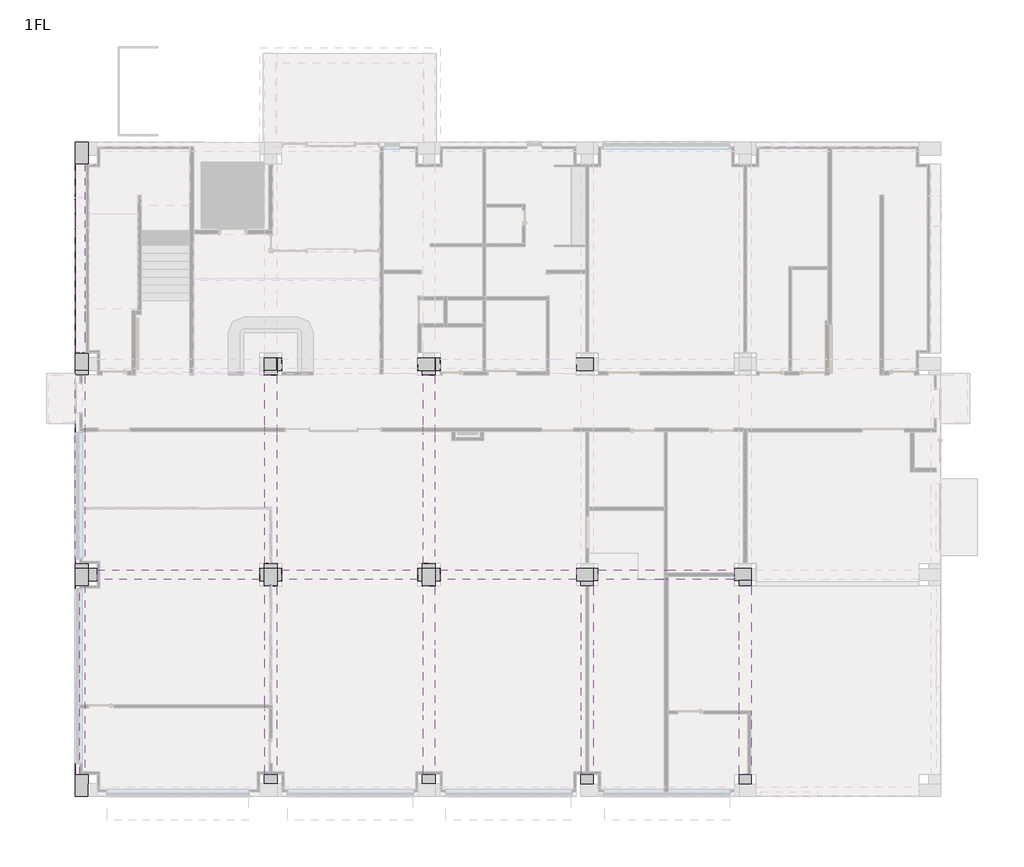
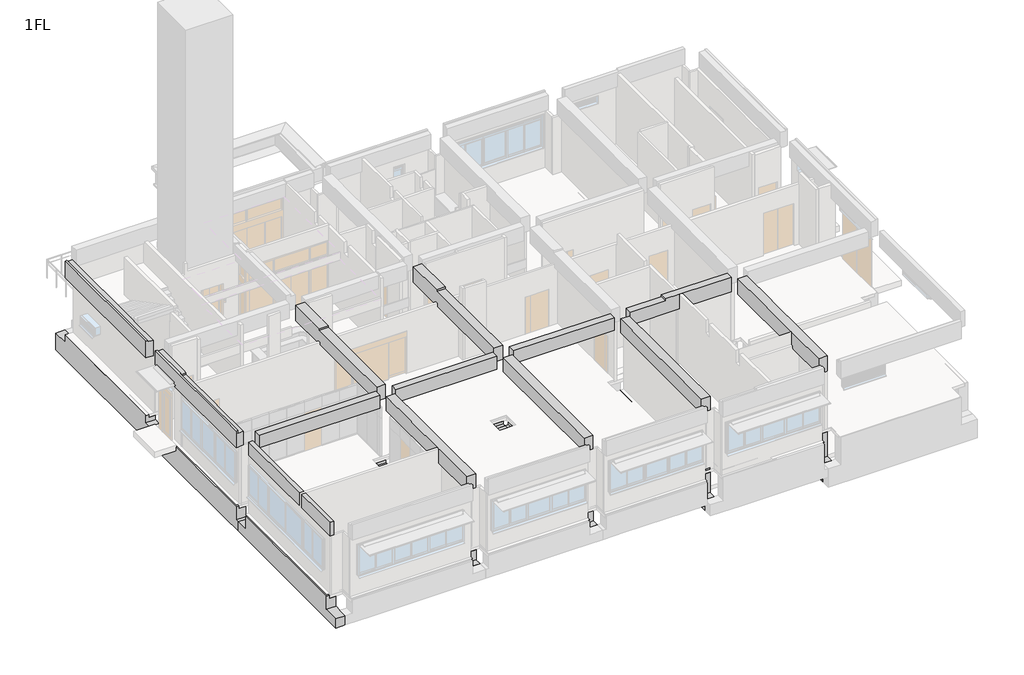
# One storey, part 5 of 7: 45 beams.
"""IFC4 building model written with IfcOpenShell, lengths in millimetres."""

from ifc_helpers import new_model, si_unit, frame, origin, place, context, project, spatial, polyline, outline, extrude, faceted_brep, element, save

model = new_model("IFC4")

# Units and contexts
model_context = context("Model", 3, world=origin())
ifc_project = project(units=[si_unit("LENGTHUNIT", "METRE", prefix="MILLI")], contexts=[model_context])

# Site, building, storey
site = spatial("IfcSite", under=ifc_project)
building = spatial("IfcBuilding", under=site)
storey = spatial("IfcBuildingStorey", under=building, Name="1FL", Elevation=0.0)

# Beams
placement = place(None, origin())
element("IfcBeam", 1, ObjectType="営_RC梁 : 2-RG11 350*900", at=placement, inside=storey, context=model_context, shape_type="SweptSolid", body=[
    extrude(outline(polyline([(-50.0, 7580.0), (-50.0, 420.0), (-250.0, 420.0), (-250.0, 7580.0), (-50.0, 7580.0)])), frame((0.0, 0.0, 3100.0), z_axis=(0.0, 0.0, 1.0), x_axis=(1.0, 0.0, 0.0)), (0.0, 0.0, 1.0), 750.0),
])
element("IfcBeam", 2, ObjectType="営_RC梁 : 2-RG11 350*900", at=placement, inside=storey, context=model_context, shape_type="Brep", body=[
    faceted_brep([(-50.0, 15580.0, 3100.0), (-250.0, 15580.0, 3100.0), (-420.0, 15580.0, 3100.0), (-420.0, 15580.0, 4000.0), (-325.0, 15580.0, 4000.0), (-325.0, 15580.0, 3940.0), (-250.0, 15580.0, 3940.0), (-50.0, 15580.0, 3940.0), (-420.0, 8420.0, 4000.0), (-420.0, 8420.0, 3100.0), (-250.0, 8420.0, 3100.0), (-50.0, 8420.0, 3100.0), (-50.0, 8420.0, 3850.0), (-250.0, 8420.0, 3850.0), (-335.0, 8420.0, 3850.0), (-335.0, 8420.0, 4000.0), (-50.0, 13440.0, 3100.0), (-50.0, 13560.0, 3100.0), (-50.0, 13675.0, 3940.0), (-50.0, 13500.0, 3940.0), (-50.0, 13500.0, 3850.0), (-50.0, 13325.0, 3850.0), (-50.0, 10925.0, 3850.0), (-50.0, 10575.0, 3850.0), (-420.0, 14142.5, 3100.0), (-420.0, 15262.5, 3100.0), (-335.0, 13500.0, 4000.0), (-325.0, 13500.0, 4000.0), (-250.0, 13500.0, 3850.0), (-335.0, 13500.0, 3850.0), (-250.0, 13500.0, 3940.0), (-325.0, 13500.0, 3940.0)], [[[0, 1, 2, 3, 4, 5, 6, 7]], [[8, 9, 10, 11, 12, 13, 14, 15]], [[11, 16, 17, 0, 7, 18, 19, 20, 21, 22, 23, 12]], [[2, 1, 0, 17, 16, 11, 10, 9, 24, 25]], [[3, 2, 25, 24, 9, 8]], [[3, 8, 15, 26, 27, 4]], [[20, 28, 29, 14, 13, 12, 23, 22, 21]], [[29, 26, 15, 14]], [[26, 29, 28, 20, 19, 30, 31, 27]], [[5, 31, 30, 19, 18, 7, 6]], [[31, 5, 4, 27]]]),
])
element("IfcBeam", 3, ObjectType="営_RC梁 : 2-RG11 350*900", at=placement, inside=storey, context=model_context, shape_type="Brep", body=[
    faceted_brep([(-50.0, 23580.0, 3100.0), (-250.0, 23580.0, 3100.0), (-420.0, 23580.0, 3100.0), (-420.0, 23580.0, 4000.0), (-325.0, 23580.0, 4000.0), (-325.0, 23580.0, 3940.0), (-250.0, 23580.0, 3940.0), (-50.0, 23580.0, 3940.0), (-420.0, 16420.0, 4000.0), (-420.0, 16420.0, 3100.0), (-250.0, 16420.0, 3100.0), (-50.0, 16420.0, 3100.0), (-50.0, 16420.0, 3940.0), (-250.0, 16420.0, 3940.0), (-325.0, 16420.0, 3940.0), (-325.0, 16420.0, 4000.0), (-50.0, 18225.0, 3940.0), (-50.0, 17975.0, 3940.0)], [[[0, 1, 2, 3, 4, 5, 6, 7]], [[8, 9, 10, 11, 12, 13, 14, 15]], [[11, 0, 7, 16, 17, 12]], [[2, 1, 0, 11, 10, 9]], [[3, 2, 9, 8]], [[3, 8, 15, 4]], [[5, 14, 13, 12, 17, 16, 7, 6]], [[14, 5, 4, 15]]]),
])
element("IfcBeam", 4, ObjectType="営_RC梁 : 2-RG2 350*850", at=placement, inside=storey, context=model_context, shape_type="SweptSolid", body=[
    extrude(outline(polyline([(6580.0, 8175.0), (6580.0, 7825.0), (420.0, 7825.0), (420.0, 8175.0), (6580.0, 8175.0)])), frame((0.0, 0.0, 3150.0), z_axis=(0.0, 0.0, 1.0), x_axis=(1.0, 0.0, 0.0)), (0.0, 0.0, 1.0), 700.0),
])
element("IfcBeam", 5, ObjectType="営_RC梁 : 2-RG2 350*850", at=placement, inside=storey, context=model_context, shape_type="SweptSolid", body=[
    extrude(outline(polyline([(7420.0, 7825.0), (7420.0, 8175.0), (12580.0, 8175.0), (12580.0, 7825.0), (7420.0, 7825.0)])), frame((0.0, 0.0, 3150.0), z_axis=(0.0, 0.0, 1.0), x_axis=(1.0, 0.0, 0.0)), (0.0, 0.0, 1.0), 700.0),
])
element("IfcBeam", 6, ObjectType="営_RC梁 : 2-RG2 350*850", at=placement, inside=storey, context=model_context, shape_type="SweptSolid", body=[
    extrude(outline(polyline([(13420.0, 7825.0), (13420.0, 8175.0), (18580.0, 8175.0), (18580.0, 7825.0), (13420.0, 7825.0)])), frame((0.0, 0.0, 3150.0), z_axis=(0.0, 0.0, 1.0), x_axis=(1.0, 0.0, 0.0)), (0.0, 0.0, 1.0), 700.0),
])
element("IfcBeam", 7, ObjectType="営_RC梁 : 2-RG2 350*850", at=placement, inside=storey, context=model_context, shape_type="Brep", body=[
    faceted_brep([(19420.0, 7825.0, 3150.0), (21925.0, 7825.0, 3150.0), (22075.0, 7825.0, 3150.0), (24580.0, 7825.0, 3150.0), (24580.0, 7825.0, 3940.0), (22075.0, 7825.0, 3940.0), (21925.0, 7825.0, 3940.0), (21200.0, 7825.0, 3940.0), (21200.0, 7825.0, 3850.0), (19420.0, 7825.0, 3850.0), (19420.0, 8175.0, 3150.0), (21920.0, 8175.0, 3150.0), (22040.0, 8175.0, 3150.0), (24580.0, 8175.0, 3150.0), (24580.0, 8075.0, 3150.0), (24580.0, 7925.0, 3150.0), (19420.0, 8175.0, 3850.0), (21200.0, 8175.0, 3850.0), (21200.0, 8175.0, 3940.0), (24580.0, 8175.0, 3940.0)], [[[0, 1, 2, 3, 4, 5, 6, 7, 8, 9]], [[0, 10, 11, 12, 13, 14, 15, 3, 2, 1]], [[13, 12, 11, 10, 16, 17, 18, 19]], [[10, 0, 9, 16]], [[3, 15, 14, 13, 19, 4]], [[8, 17, 16, 9]], [[17, 8, 7, 18]], [[7, 6, 5, 4, 19, 18]]]),
])
element("IfcBeam", 8, ObjectType="営_RC梁 : 2-4G12 450*900", at=placement, inside=storey, context=model_context, shape_type="Brep", body=[
    faceted_brep([(7225.0, 420.0, 3100.0), (7225.0, 7580.0, 3100.0), (7225.0, 7580.0, 3850.0), (7225.0, 5505.0, 3850.0), (7225.0, 5155.0, 3850.0), (7225.0, 2835.0, 3850.0), (7225.0, 2485.0, 3850.0), (7225.0, 420.0, 3850.0), (7060.0, 420.0, 3100.0), (6940.0, 420.0, 3100.0), (6775.0, 420.0, 3100.0), (6775.0, 2940.0, 3100.0), (6775.0, 3060.0, 3100.0), (6775.0, 7580.0, 3100.0), (6775.0, 420.0, 3850.0), (6775.0, 2485.0, 3850.0), (6775.0, 2835.0, 3850.0), (6775.0, 2940.0, 3850.0), (6775.0, 3060.0, 3850.0), (6775.0, 5155.0, 3850.0), (6775.0, 5505.0, 3850.0), (6775.0, 7580.0, 3850.0)], [[[0, 1, 2, 3, 4, 5, 6, 7]], [[0, 8, 9, 10, 11, 12, 13, 1]], [[13, 12, 11, 10, 14, 15, 16, 17, 18, 19, 20, 21]], [[10, 9, 8, 0, 7, 14]], [[1, 13, 21, 2]], [[7, 6, 5, 4, 3, 2, 21, 20, 19, 18, 17, 16, 15, 14]]]),
])
element("IfcBeam", 9, ObjectType="営_RC梁 : 2-4G12 450*900", at=placement, inside=storey, context=model_context, shape_type="Brep", body=[
    faceted_brep([(7225.0, 8420.0, 3100.0), (7225.0, 13440.0, 3100.0), (7225.0, 13560.0, 3100.0), (7225.0, 15580.0, 3100.0), (7225.0, 15580.0, 3940.0), (7225.0, 13675.0, 3940.0), (7225.0, 13500.0, 3940.0), (7225.0, 13500.0, 3850.0), (7225.0, 13325.0, 3850.0), (7225.0, 10925.0, 3850.0), (7225.0, 10575.0, 3850.0), (7225.0, 8420.0, 3850.0), (6775.0, 8420.0, 3100.0), (6775.0, 13440.0, 3100.0), (6775.0, 13560.0, 3100.0), (6775.0, 15580.0, 3100.0), (6775.0, 8420.0, 3850.0), (6775.0, 10575.0, 3850.0), (6775.0, 10925.0, 3850.0), (6775.0, 13325.0, 3850.0), (6775.0, 13500.0, 3850.0), (6775.0, 13500.0, 3940.0), (6775.0, 13675.0, 3940.0), (6775.0, 15580.0, 3940.0)], [[[0, 1, 2, 3, 4, 5, 6, 7, 8, 9, 10, 11]], [[0, 12, 13, 14, 15, 3, 2, 1]], [[15, 14, 13, 12, 16, 17, 18, 19, 20, 21, 22, 23]], [[12, 0, 11, 16]], [[3, 15, 23, 4]], [[7, 20, 19, 18, 17, 16, 11, 10, 9, 8]], [[20, 7, 6, 21]], [[6, 5, 4, 23, 22, 21]]]),
])
element("IfcBeam", 10, ObjectType="営_RC梁 : 2-4G12 450*900", at=placement, inside=storey, context=model_context, shape_type="Brep", body=[
    faceted_brep([(13225.0, 420.0, 3100.0), (13225.0, 7580.0, 3100.0), (13225.0, 7580.0, 3850.0), (13225.0, 5505.0, 3850.0), (13225.0, 5155.0, 3850.0), (13225.0, 2835.0, 3850.0), (13225.0, 2485.0, 3850.0), (13225.0, 420.0, 3850.0), (12775.0, 420.0, 3100.0), (12775.0, 7580.0, 3100.0), (12775.0, 420.0, 3850.0), (12775.0, 2485.0, 3850.0), (12775.0, 2835.0, 3850.0), (12775.0, 5155.0, 3850.0), (12775.0, 5505.0, 3850.0), (12775.0, 7580.0, 3850.0)], [[[0, 1, 2, 3, 4, 5, 6, 7]], [[0, 8, 9, 1]], [[9, 8, 10, 11, 12, 13, 14, 15]], [[8, 0, 7, 10]], [[1, 9, 15, 2]], [[7, 6, 5, 4, 3, 2, 15, 14, 13, 12, 11, 10]]]),
])
element("IfcBeam", 11, ObjectType="営_RC梁 : 2-4G12 450*900", at=placement, inside=storey, context=model_context, shape_type="Brep", body=[
    faceted_brep([(13225.0, 8420.0, 3100.0), (13225.0, 13440.0, 3100.0), (13225.0, 13560.0, 3100.0), (13225.0, 15580.0, 3100.0), (13225.0, 15580.0, 3940.0), (13225.0, 13675.0, 3940.0), (13225.0, 13500.0, 3940.0), (13225.0, 13500.0, 3850.0), (13225.0, 13325.0, 3850.0), (13225.0, 10925.0, 3850.0), (13225.0, 10575.0, 3850.0), (13225.0, 8420.0, 3850.0), (12775.0, 8420.0, 3100.0), (12775.0, 13440.0, 3100.0), (12775.0, 13560.0, 3100.0), (12775.0, 15580.0, 3100.0), (12775.0, 8420.0, 3850.0), (12775.0, 10575.0, 3850.0), (12775.0, 10925.0, 3850.0), (12775.0, 13325.0, 3850.0), (12775.0, 13500.0, 3850.0), (12775.0, 13500.0, 3940.0), (12775.0, 13675.0, 3940.0), (12775.0, 15580.0, 3940.0)], [[[0, 1, 2, 3, 4, 5, 6, 7, 8, 9, 10, 11]], [[0, 12, 13, 14, 15, 3, 2, 1]], [[15, 14, 13, 12, 16, 17, 18, 19, 20, 21, 22, 23]], [[12, 0, 11, 16]], [[3, 15, 23, 4]], [[7, 20, 19, 18, 17, 16, 11, 10, 9, 8]], [[20, 7, 6, 21]], [[6, 5, 4, 23, 22, 21]]]),
])
element("IfcBeam", 12, ObjectType="営_RC梁 : 2-4G12 450*900", at=placement, inside=storey, context=model_context, shape_type="Brep", body=[
    faceted_brep([(19225.0, 420.0, 3100.0), (19225.0, 7580.0, 3100.0), (19225.0, 7580.0, 3850.0), (19225.0, 5505.0, 3850.0), (19225.0, 5155.0, 3850.0), (19225.0, 2835.0, 3850.0), (19225.0, 2485.0, 3850.0), (19225.0, 420.0, 3850.0), (18775.0, 7580.0, 3100.0), (18940.0, 7580.0, 3100.0), (19060.0, 7580.0, 3100.0), (19060.0, 420.0, 3100.0), (18940.0, 420.0, 3100.0), (18775.0, 420.0, 3100.0), (18775.0, 420.0, 3850.0), (18775.0, 2485.0, 3850.0), (18775.0, 2835.0, 3850.0), (18775.0, 5155.0, 3850.0), (18775.0, 5505.0, 3850.0), (18775.0, 7580.0, 3850.0)], [[[0, 1, 2, 3, 4, 5, 6, 7]], [[8, 9, 10, 1, 0, 11, 12, 13]], [[8, 13, 14, 15, 16, 17, 18, 19]], [[1, 10, 9, 8, 19, 2]], [[13, 12, 11, 0, 7, 14]], [[7, 6, 5, 4, 3, 2, 19, 18, 17, 16, 15, 14]]]),
])
element("IfcBeam", 13, ObjectType="営_RC梁 : 2-4G12 450*900", at=placement, inside=storey, context=model_context, shape_type="Brep", body=[
    faceted_brep([(25225.0, 420.0, 3100.0), (25225.0, 7580.0, 3100.0), (25225.0, 7580.0, 3940.0), (25225.0, 5505.0, 3940.0), (25225.0, 5155.0, 3940.0), (25225.0, 2839.0, 3940.0), (25225.0, 2489.0, 3940.0), (25225.0, 420.0, 3940.0), (24775.0, 7580.0, 3100.0), (25211.4048652, 420.0, 3100.0), (25091.4048652, 420.0, 3100.0), (24775.0, 420.0, 3100.0), (24775.0, 2718.3416571, 3100.0), (24775.0, 2838.3416571, 3100.0), (24775.0, 420.0, 3940.0), (24775.0, 2485.0, 3940.0), (24775.0, 2835.0, 3940.0), (24775.0, 2838.3416571, 3940.0), (24775.0, 5155.0, 3940.0), (24775.0, 5505.0, 3940.0), (24775.0, 7580.0, 3940.0)], [[[0, 1, 2, 3, 4, 5, 6, 7]], [[8, 1, 0, 9, 10, 11, 12, 13]], [[8, 13, 12, 11, 14, 15, 16, 17, 18, 19, 20]], [[1, 8, 20, 2]], [[11, 10, 9, 0, 7, 14]], [[7, 6, 5, 4, 3, 2, 20, 19, 18, 17, 16, 15, 14]]]),
])
element("IfcBeam", 14, ObjectType="営_RC梁 : FG11 450*1200", at=placement, inside=storey, context=model_context, shape_type="Brep", body=[
    faceted_brep([(70.0, 16420.0, -400.0), (70.0, 16400.0, -400.0), (70.0, 16245.0, -400.0), (70.0, 15755.0, -400.0), (70.0, 15755.0, -1300.0), (70.0, 16245.0, -1300.0), (70.0, 17500.0, -1300.0), (70.0, 22500.0, -1300.0), (70.0, 23930.0, -1300.0), (70.0, 24420.0, -1300.0), (70.0, 24420.0, -400.0), (70.0, 23930.0, -400.0), (70.0, 23600.0, -400.0), (70.0, 23580.0, -400.0), (70.0, 23580.0, -160.0), (70.0, 18245.0, -160.0), (70.0, 17955.0, -160.0), (70.0, 16420.0, -160.0), (-420.0, 24420.0, -1300.0), (-420.0, 15755.0, -1300.0), (-420.0, 17500.0, -1300.0), (-420.0, 22500.0, -1300.0), (-420.0, 15755.0, -400.0), (-420.0, 16420.0, -400.0), (-420.0, 16420.0, -10.0), (-420.0, 23580.0, -10.0), (-420.0, 23580.0, -400.0), (-420.0, 24420.0, -400.0), (-420.0, 24420.0, -405.4545455), (-250.0, 16420.0, -10.0), (-250.0, 23580.0, -10.0), (-250.0, 16420.0, -160.0), (-250.0, 23580.0, -160.0)], [[[0, 1, 2, 3, 4, 5, 6, 7, 8, 9, 10, 11, 12, 13, 14, 15, 16, 17]], [[18, 9, 8, 7, 6, 5, 4, 19, 20, 21]], [[22, 23, 24, 25, 26, 27, 28, 18, 21, 20, 19]], [[25, 24, 29, 30]], [[0, 23, 22, 3, 2, 1]], [[23, 0, 17, 31, 29, 24]], [[9, 18, 28, 27, 10]], [[26, 13, 12, 11, 10, 27]], [[13, 26, 25, 30, 32, 14]], [[19, 4, 3, 22]], [[32, 31, 17, 16, 15, 14]], [[31, 32, 30, 29]]]),
])
element("IfcBeam", 15, ObjectType="営_RC梁 : FG11 450*1200", at=placement, inside=storey, context=model_context, shape_type="Brep", body=[
    faceted_brep([(70.0, 420.0, -800.0), (70.0, 400.0, -800.0), (70.0, 70.0, -800.0), (70.0, -420.0, -800.0), (70.0, -420.0, -1300.0), (70.0, 70.0, -1300.0), (70.0, 1350.0, -1300.0), (70.0, 6650.0, -1300.0), (70.0, 7755.0, -1300.0), (70.0, 8245.0, -1300.0), (70.0, 8245.0, -800.0), (70.0, 7755.0, -800.0), (70.0, 7600.0, -800.0), (70.0, 7580.0, -800.0), (70.0, 7580.0, -250.0), (70.0, 5523.0, -250.0), (70.0, 5133.0, -250.0), (70.0, 2855.0, -250.0), (70.0, 2465.0, -250.0), (70.0, 420.0, -250.0), (-420.0, 8245.0, -1300.0), (-420.0, -420.0, -1300.0), (-420.0, 1350.0, -1300.0), (-420.0, 6650.0, -1300.0), (-420.0, -420.0, -800.0), (-420.0, 420.0, -800.0), (-420.0, 420.0, -100.0), (-420.0, 7580.0, -100.0), (-420.0, 7580.0, -800.0), (-420.0, 8245.0, -800.0), (-420.0, -420.0, -804.2105263), (-250.0, 420.0, -100.0), (-250.0, 7580.0, -100.0), (-250.0, 420.0, -250.0), (-250.0, 7580.0, -250.0)], [[[0, 1, 2, 3, 4, 5, 6, 7, 8, 9, 10, 11, 12, 13, 14, 15, 16, 17, 18, 19]], [[20, 9, 8, 7, 6, 5, 4, 21, 22, 23]], [[24, 25, 26, 27, 28, 29, 20, 23, 22, 21, 30]], [[27, 26, 31, 32]], [[0, 25, 24, 3, 2, 1]], [[25, 0, 19, 33, 31, 26]], [[28, 13, 12, 11, 10, 29]], [[13, 28, 27, 32, 34, 14]], [[9, 20, 29, 10]], [[21, 4, 3, 24, 30]], [[34, 33, 19, 18, 17, 16, 15, 14]], [[33, 34, 32, 31]]]),
])
element("IfcBeam", 16, ObjectType="営_RC梁 : FG11 450*1200", at=placement, inside=storey, context=model_context, shape_type="Brep", body=[
    faceted_brep([(70.0, 15755.0, -400.0), (70.0, 15600.0, -400.0), (70.0, 15580.0, -400.0), (70.0, 15580.0, -160.0), (70.0, 13695.0, -160.0), (70.0, 13500.0, -160.0), (70.0, 13500.0, -250.0), (70.0, 13305.0, -250.0), (70.0, 10945.0, -250.0), (70.0, 10555.0, -250.0), (70.0, 8420.0, -250.0), (70.0, 8420.0, -800.0), (70.0, 8400.0, -800.0), (70.0, 8245.0, -800.0), (70.0, 8245.0, -1300.0), (70.0, 9350.0, -1300.0), (70.0, 14500.0, -1300.0), (70.0, 15755.0, -1300.0), (-420.0, 15755.0, -1300.0), (-420.0, 8245.0, -1300.0), (-420.0, 9350.0, -1300.0), (-420.0, 14500.0, -1300.0), (-420.0, 8420.0, -800.0), (-420.0, 8420.0, -100.0), (-420.0, 15580.0, -100.0), (-420.0, 15580.0, -400.0), (-420.0, 15755.0, -400.0), (-420.0, 8245.0, -800.0), (-250.0, 8420.0, -100.0), (-250.0, 13500.0, -100.0), (-250.0, 15580.0, -100.0), (-250.0, 8420.0, -250.0), (-250.0, 15580.0, -160.0), (-250.0, 13500.0, -160.0), (-250.0, 13500.0, -250.0)], [[[0, 1, 2, 3, 4, 5, 6, 7, 8, 9, 10, 11, 12, 13, 14, 15, 16, 17]], [[18, 17, 16, 15, 14, 19, 20, 21]], [[22, 23, 24, 25, 26, 18, 21, 20, 19, 27]], [[24, 23, 28, 29, 30]], [[11, 22, 27, 13, 12]], [[22, 11, 10, 31, 28, 23]], [[25, 2, 1, 0, 26]], [[2, 25, 24, 30, 32, 3]], [[17, 18, 26, 0]], [[14, 13, 27, 19]], [[32, 33, 5, 4, 3]], [[33, 32, 30, 29, 28, 31, 34]], [[6, 34, 31, 10, 9, 8, 7]], [[33, 34, 6, 5]]]),
])
element("IfcBeam", 17, ObjectType="営_RC梁 : FG3 450*1850", at=placement, inside=storey, context=model_context, shape_type="Brep", body=[
    faceted_brep([(7420.0, 15755.0, -950.0), (7400.0, 15755.0, -950.0), (7245.0, 15755.0, -950.0), (6755.0, 15755.0, -950.0), (6755.0, 15755.0, -1300.0), (6755.0, 15755.0, -1950.0), (8650.0, 15755.0, -1950.0), (11350.0, 15755.0, -1950.0), (13225.0, 15755.0, -1950.0), (13225.0, 15755.0, -950.0), (12755.0, 15755.0, -950.0), (12600.0, 15755.0, -950.0), (12580.0, 15755.0, -950.0), (12580.0, 15755.0, -160.0), (7420.0, 15755.0, -160.0), (6755.0, 16225.0, -1950.0), (7225.0, 16225.0, -1950.0), (8650.0, 16225.0, -1950.0), (11350.0, 16225.0, -1950.0), (12775.0, 16225.0, -1950.0), (13225.0, 16225.0, -1950.0), (6755.0, 16225.0, -950.0), (7225.0, 16225.0, -950.0), (7400.0, 16225.0, -950.0), (7420.0, 16225.0, -950.0), (7420.0, 16225.0, -160.0), (11025.0, 16225.0, -160.0), (11375.0, 16225.0, -160.0), (12580.0, 16225.0, -160.0), (12580.0, 16225.0, -950.0), (12600.0, 16225.0, -950.0), (12775.0, 16225.0, -950.0), (13225.0, 16225.0, -950.0)], [[[0, 1, 2, 3, 4, 5, 6, 7, 8, 9, 10, 11, 12, 13, 14]], [[5, 15, 16, 17, 18, 19, 20, 8, 7, 6]], [[21, 22, 23, 24, 25, 26, 27, 28, 29, 30, 31, 32, 20, 19, 18, 17, 16, 15]], [[0, 24, 23, 22, 21, 3, 2, 1]], [[24, 0, 14, 25]], [[29, 12, 11, 10, 9, 32, 31, 30]], [[12, 29, 28, 13]], [[15, 5, 4, 3, 21]], [[8, 20, 32, 9]], [[14, 13, 28, 27, 26, 25]]]),
])
element("IfcBeam", 18, ObjectType="営_RC梁 : FG3 450*1850", at=placement, inside=storey, context=model_context, shape_type="Brep", body=[
    faceted_brep([(13420.0, 15755.0, -950.0), (13400.0, 15755.0, -950.0), (13245.0, 15755.0, -950.0), (12772.6070916, 15755.0, -950.0), (12772.6070916, 15755.0, -1950.0), (14650.0, 15755.0, -1950.0), (17350.0, 15755.0, -1950.0), (19225.0, 15755.0, -1950.0), (19225.0, 15755.0, -950.0), (18755.0, 15755.0, -950.0), (18600.0, 15755.0, -950.0), (18580.0, 15755.0, -950.0), (18580.0, 15755.0, -160.0), (13420.0, 15755.0, -160.0), (12775.0, 16225.0, -1950.0), (13225.0, 16225.0, -1950.0), (14650.0, 16225.0, -1950.0), (17350.0, 16225.0, -1950.0), (18775.0, 16225.0, -1950.0), (19225.0, 16225.0, -1950.0), (12772.6070916, 16000.0, -1950.0), (12775.0, 16000.0, -1950.0), (12775.0, 16225.0, -950.0), (13225.0, 16225.0, -950.0), (13400.0, 16225.0, -950.0), (13420.0, 16225.0, -950.0), (13420.0, 16225.0, -160.0), (18580.0, 16225.0, -160.0), (18580.0, 16225.0, -950.0), (18600.0, 16225.0, -950.0), (18775.0, 16225.0, -950.0), (19225.0, 16225.0, -950.0), (12772.6070916, 16000.0, -950.0), (12775.0, 16000.0, -950.0)], [[[0, 1, 2, 3, 4, 5, 6, 7, 8, 9, 10, 11, 12, 13]], [[14, 15, 16, 17, 18, 19, 7, 6, 5, 4, 20, 21]], [[22, 23, 24, 25, 26, 27, 28, 29, 30, 31, 19, 18, 17, 16, 15, 14]], [[20, 4, 3, 32]], [[0, 25, 24, 23, 22, 33, 32, 3, 2, 1]], [[25, 0, 13, 26]], [[28, 11, 10, 9, 8, 31, 30, 29]], [[11, 28, 27, 12]], [[7, 19, 31, 8]], [[21, 20, 32, 33]], [[14, 21, 33, 22]], [[13, 12, 27, 26]]]),
])
element("IfcBeam", 19, ObjectType="営_RC梁 : FG2 450*1200", at=placement, inside=storey, context=model_context, shape_type="Brep", body=[
    faceted_brep([(7245.0, 7755.0, -400.0), (6755.0, 7755.0, -400.0), (6600.0, 7755.0, -400.0), (6580.0, 7755.0, -400.0), (6580.0, 7755.0, -250.0), (420.0, 7755.0, -250.0), (420.0, 7755.0, -800.0), (400.0, 7755.0, -800.0), (70.0, 7755.0, -800.0), (70.0, 7755.0, -1300.0), (1350.0, 7755.0, -1300.0), (5350.0, 7755.0, -1300.0), (6755.0, 7755.0, -1300.0), (7245.0, 7755.0, -1300.0), (7245.0, 8245.0, -1300.0), (70.0, 8245.0, -1300.0), (1350.0, 8245.0, -1300.0), (5350.0, 8245.0, -1300.0), (6755.0, 8245.0, -1300.0), (6580.0, 8245.0, -400.0), (6600.0, 8245.0, -400.0), (6755.0, 8245.0, -400.0), (7245.0, 8245.0, -400.0), (70.0, 8245.0, -800.0), (400.0, 8245.0, -800.0), (420.0, 8245.0, -800.0), (420.0, 8245.0, -250.0), (6580.0, 8245.0, -250.0)], [[[0, 1, 2, 3, 4, 5, 6, 7, 8, 9, 10, 11, 12, 13]], [[14, 13, 12, 11, 10, 9, 15, 16, 17, 18]], [[19, 20, 21, 22, 14, 18, 17, 16, 15, 23, 24, 25, 26, 27]], [[19, 3, 2, 1, 0, 22, 21, 20]], [[3, 19, 27, 4]], [[6, 25, 24, 23, 8, 7]], [[25, 6, 5, 26]], [[13, 14, 22, 0]], [[9, 8, 23, 15]], [[5, 4, 27, 26]]]),
])
element("IfcBeam", 20, ObjectType="営_RC梁 : FG2 450*1200", at=placement, inside=storey, context=model_context, shape_type="Brep", body=[
    faceted_brep([(7420.0, 7755.0, -400.0), (7400.0, 7755.0, -400.0), (7245.0, 7755.0, -400.0), (6755.0, 7755.0, -400.0), (6755.0, 7755.0, -1300.0), (7245.0, 7755.0, -1300.0), (8650.0, 7755.0, -1300.0), (11350.0, 7755.0, -1300.0), (12755.0, 7755.0, -1300.0), (13245.0, 7755.0, -1300.0), (13245.0, 7755.0, -400.0), (12755.0, 7755.0, -400.0), (12600.0, 7755.0, -400.0), (12580.0, 7755.0, -400.0), (12580.0, 7755.0, -250.0), (7420.0, 7755.0, -250.0), (6755.0, 8245.0, -1300.0), (7245.0, 8245.0, -1300.0), (8650.0, 8245.0, -1300.0), (11350.0, 8245.0, -1300.0), (12755.0, 8245.0, -1300.0), (13245.0, 8245.0, -1300.0), (6755.0, 8245.0, -400.0), (7245.0, 8245.0, -400.0), (7400.0, 8245.0, -400.0), (7420.0, 8245.0, -400.0), (7420.0, 8245.0, -250.0), (12580.0, 8245.0, -250.0), (12580.0, 8245.0, -400.0), (12600.0, 8245.0, -400.0), (12755.0, 8245.0, -400.0), (13245.0, 8245.0, -400.0)], [[[0, 1, 2, 3, 4, 5, 6, 7, 8, 9, 10, 11, 12, 13, 14, 15]], [[4, 16, 17, 18, 19, 20, 21, 9, 8, 7, 6, 5]], [[22, 23, 24, 25, 26, 27, 28, 29, 30, 31, 21, 20, 19, 18, 17, 16]], [[0, 25, 24, 23, 22, 3, 2, 1]], [[25, 0, 15, 26]], [[28, 13, 12, 11, 10, 31, 30, 29]], [[13, 28, 27, 14]], [[16, 4, 3, 22]], [[9, 21, 31, 10]], [[15, 14, 27, 26]]]),
])
element("IfcBeam", 21, ObjectType="営_RC梁 : FG2 450*1200", at=placement, inside=storey, context=model_context, shape_type="Brep", body=[
    faceted_brep([(13420.0, 7755.0, -400.0), (13400.0, 7755.0, -400.0), (13245.0, 7755.0, -400.0), (12755.0, 7755.0, -400.0), (12755.0, 7755.0, -1300.0), (13245.0, 7755.0, -1300.0), (14650.0, 7755.0, -1300.0), (17350.0, 7755.0, -1300.0), (18755.0, 7755.0, -1300.0), (19225.0, 7755.0, -1300.0), (19225.0, 7755.0, -950.0), (18755.0, 7755.0, -950.0), (18600.0, 7755.0, -950.0), (18580.0, 7755.0, -950.0), (18580.0, 7755.0, -250.0), (13420.0, 7755.0, -250.0), (12755.0, 8245.0, -1300.0), (13245.0, 8245.0, -1300.0), (14650.0, 8245.0, -1300.0), (17350.0, 8245.0, -1300.0), (18755.0, 8245.0, -1300.0), (19227.3929084, 8245.0, -1300.0), (19227.3929084, 8000.0, -1300.0), (19225.0, 8000.0, -1300.0), (12755.0, 8245.0, -400.0), (13245.0, 8245.0, -400.0), (13400.0, 8245.0, -400.0), (13420.0, 8245.0, -400.0), (13420.0, 8245.0, -250.0), (18580.0, 8245.0, -250.0), (18580.0, 8245.0, -950.0), (18600.0, 8245.0, -950.0), (18755.0, 8245.0, -950.0), (19227.3929084, 8245.0, -950.0), (19227.3929084, 8000.0, -950.0), (19225.0, 7775.0, -950.0), (19225.0, 8000.0, -950.0)], [[[0, 1, 2, 3, 4, 5, 6, 7, 8, 9, 10, 11, 12, 13, 14, 15]], [[16, 17, 18, 19, 20, 21, 22, 23, 9, 8, 7, 6, 5, 4]], [[24, 25, 26, 27, 28, 29, 30, 31, 32, 33, 21, 20, 19, 18, 17, 16]], [[22, 21, 33, 34]], [[0, 27, 26, 25, 24, 3, 2, 1]], [[27, 0, 15, 28]], [[30, 13, 12, 11, 10, 35, 36, 34, 33, 32, 31]], [[13, 30, 29, 14]], [[16, 4, 3, 24]], [[23, 22, 34, 36]], [[9, 23, 36, 35, 10]], [[15, 14, 29, 28]]]),
])
element("IfcBeam", 22, ObjectType="営_RC梁 : FG3 450*1850", at=placement, inside=storey, context=model_context, shape_type="Brep", body=[
    faceted_brep([(19420.0, 7775.0, -950.0), (19400.0, 7775.0, -950.0), (19225.0, 7775.0, -950.0), (18755.0, 7775.0, -950.0), (18755.0, 7775.0, -1950.0), (18755.0, 7775.0, -2150.0), (18755.0, 7775.0, -2500.0), (23350.0, 7775.0, -2500.0), (24775.0, 7775.0, -2500.0), (25225.0, 7775.0, -2500.0), (25225.0, 7775.0, -1500.0), (24775.0, 7775.0, -1500.0), (24600.0, 7775.0, -1500.0), (24580.0, 7775.0, -1500.0), (24580.0, 7775.0, -160.0), (22175.0, 7775.0, -160.0), (22175.0, 7775.0, -250.0), (19420.0, 7775.0, -250.0), (18755.0, 8245.0, -2500.0), (23350.0, 8245.0, -2500.0), (24755.0, 8245.0, -2500.0), (25225.0, 8245.0, -2500.0), (25225.0, 8225.0, -2500.0), (18755.0, 8245.0, -950.0), (19245.0, 8245.0, -950.0), (19400.0, 8245.0, -950.0), (19420.0, 8245.0, -950.0), (19420.0, 8245.0, -250.0), (24580.0, 8245.0, -250.0), (24580.0, 8245.0, -1500.0), (24600.0, 8245.0, -1500.0), (24755.0, 8245.0, -1500.0), (25225.0, 8245.0, -1500.0), (18755.0, 8245.0, -2150.0), (18755.0, 8245.0, -1300.0), (24580.0, 7825.0, -250.0), (24580.0, 7825.0, -160.0), (25225.0, 8225.0, -1500.0), (22175.0, 7825.0, -160.0), (22175.0, 7825.0, -250.0)], [[[0, 1, 2, 3, 4, 5, 6, 7, 8, 9, 10, 11, 12, 13, 14, 15, 16, 17]], [[6, 18, 19, 20, 21, 22, 9, 8, 7]], [[23, 24, 25, 26, 27, 28, 29, 30, 31, 32, 21, 20, 19, 18, 33, 34]], [[0, 26, 25, 24, 23, 3, 2, 1]], [[26, 0, 17, 27]], [[13, 29, 28, 35, 36, 14]], [[18, 6, 5, 4, 3, 23, 34, 33]], [[9, 22, 21, 32, 37, 10]], [[29, 13, 12, 11, 10, 37, 32, 31, 30]], [[15, 14, 36, 38]], [[16, 39, 35, 28, 27, 17]], [[35, 39, 38, 36]], [[39, 16, 15, 38]]]),
])
element("IfcBeam", 23, ObjectType="営_RC梁 : FG12 450*1200", at=placement, inside=storey, context=model_context, shape_type="Brep", body=[
    faceted_brep([(7245.0, 8245.0, -400.0), (7245.0, 7755.0, -400.0), (7245.0, 7600.0, -400.0), (7245.0, 7580.0, -400.0), (7245.0, 7580.0, -250.0), (7245.0, 5523.0, -250.0), (7245.0, 5133.0, -250.0), (7245.0, 2855.0, -250.0), (7245.0, 2465.0, -250.0), (7245.0, 420.0, -250.0), (7245.0, 420.0, -800.0), (7245.0, 400.0, -800.0), (7245.0, 70.0, -800.0), (7245.0, 70.0, -1300.0), (7245.0, 1350.0, -1300.0), (7245.0, 6350.0, -1300.0), (7245.0, 7755.0, -1300.0), (7245.0, 8245.0, -1300.0), (6755.0, 8245.0, -1300.0), (6755.0, 70.0, -1300.0), (6755.0, 1350.0, -1300.0), (6755.0, 6350.0, -1300.0), (6755.0, 7755.0, -1300.0), (6755.0, 7580.0, -400.0), (6755.0, 7600.0, -400.0), (6755.0, 7755.0, -400.0), (6755.0, 8245.0, -400.0), (6755.0, 70.0, -800.0), (6755.0, 400.0, -800.0), (6755.0, 420.0, -800.0), (6755.0, 420.0, -250.0), (6755.0, 2465.0, -250.0), (6755.0, 2855.0, -250.0), (6755.0, 5133.0, -250.0), (6755.0, 5523.0, -250.0), (6755.0, 7580.0, -250.0)], [[[0, 1, 2, 3, 4, 5, 6, 7, 8, 9, 10, 11, 12, 13, 14, 15, 16, 17]], [[18, 17, 16, 15, 14, 13, 19, 20, 21, 22]], [[23, 24, 25, 26, 18, 22, 21, 20, 19, 27, 28, 29, 30, 31, 32, 33, 34, 35]], [[17, 18, 26, 0]], [[10, 29, 28, 27, 12, 11]], [[29, 10, 9, 30]], [[23, 3, 2, 1, 0, 26, 25, 24]], [[3, 23, 35, 4]], [[13, 12, 27, 19]], [[9, 8, 7, 6, 5, 4, 35, 34, 33, 32, 31, 30]]]),
])
element("IfcBeam", 24, ObjectType="営_RC梁 : FG12 450*1200", at=placement, inside=storey, context=model_context, shape_type="Brep", body=[
    faceted_brep([(7245.0, 8245.0, -1300.0), (7245.0, 9650.0, -1300.0), (7245.0, 14350.0, -1300.0), (7245.0, 15755.0, -1300.0), (7245.0, 16225.0, -1300.0), (7245.0, 16225.0, -950.0), (7245.0, 15755.0, -950.0), (7245.0, 15600.0, -950.0), (7245.0, 15580.0, -950.0), (7245.0, 15580.0, -160.0), (7245.0, 13500.0, -160.0), (7245.0, 13500.0, -250.0), (7245.0, 8420.0, -250.0), (7245.0, 8420.0, -400.0), (7245.0, 8400.0, -400.0), (7245.0, 8245.0, -400.0), (6755.0, 8245.0, -1300.0), (6755.0, 9650.0, -1300.0), (6755.0, 14350.0, -1300.0), (6755.0, 15755.0, -1300.0), (7225.0, 15755.0, -1300.0), (7225.0, 16225.0, -1300.0), (6755.0, 8245.0, -400.0), (6755.0, 8400.0, -400.0), (6755.0, 8420.0, -400.0), (6755.0, 8420.0, -250.0), (6755.0, 13500.0, -250.0), (6755.0, 13500.0, -160.0), (6755.0, 15580.0, -160.0), (6755.0, 15580.0, -950.0), (6755.0, 15600.0, -950.0), (6755.0, 15755.0, -950.0), (7225.0, 16225.0, -950.0), (7225.0, 15755.0, -950.0)], [[[0, 1, 2, 3, 4, 5, 6, 7, 8, 9, 10, 11, 12, 13, 14, 15]], [[4, 3, 2, 1, 0, 16, 17, 18, 19, 20, 21]], [[16, 22, 23, 24, 25, 26, 27, 28, 29, 30, 31, 19, 18, 17]], [[16, 0, 15, 22]], [[13, 24, 23, 22, 15, 14]], [[24, 13, 12, 25]], [[29, 8, 7, 6, 5, 32, 33, 31, 30]], [[8, 29, 28, 9]], [[21, 20, 33, 32]], [[20, 19, 31, 33]], [[5, 4, 21, 32]], [[10, 9, 28, 27]], [[11, 26, 25, 12]], [[26, 11, 10, 27]]]),
])
element("IfcBeam", 25, ObjectType="営_RC梁 : FG12 450*1200", at=placement, inside=storey, context=model_context, shape_type="Brep", body=[
    faceted_brep([(13245.0, 8245.0, -400.0), (13245.0, 7755.0, -400.0), (13245.0, 7600.0, -400.0), (13245.0, 7580.0, -400.0), (13245.0, 7580.0, -250.0), (13245.0, 5525.0, -250.0), (13245.0, 5135.0, -250.0), (13245.0, 2855.0, -250.0), (13245.0, 2465.0, -250.0), (13245.0, 420.0, -250.0), (13245.0, 420.0, -800.0), (13245.0, 400.0, -800.0), (13245.0, 70.0, -800.0), (13245.0, 70.0, -1300.0), (13245.0, 1350.0, -1300.0), (13245.0, 6350.0, -1300.0), (13245.0, 7755.0, -1300.0), (13245.0, 8245.0, -1300.0), (12755.0, 8245.0, -1300.0), (12755.0, 70.0, -1300.0), (12755.0, 1350.0, -1300.0), (12755.0, 6350.0, -1300.0), (12755.0, 7755.0, -1300.0), (12755.0, 7580.0, -400.0), (12755.0, 7600.0, -400.0), (12755.0, 7755.0, -400.0), (12755.0, 8245.0, -400.0), (12755.0, 70.0, -800.0), (12755.0, 400.0, -800.0), (12755.0, 420.0, -800.0), (12755.0, 420.0, -250.0), (12755.0, 2465.0, -250.0), (12755.0, 2855.0, -250.0), (12755.0, 7580.0, -250.0)], [[[0, 1, 2, 3, 4, 5, 6, 7, 8, 9, 10, 11, 12, 13, 14, 15, 16, 17]], [[18, 17, 16, 15, 14, 13, 19, 20, 21, 22]], [[23, 24, 25, 26, 18, 22, 21, 20, 19, 27, 28, 29, 30, 31, 32, 33]], [[17, 18, 26, 0]], [[10, 29, 28, 27, 12, 11]], [[29, 10, 9, 30]], [[23, 3, 2, 1, 0, 26, 25, 24]], [[3, 23, 33, 4]], [[13, 12, 27, 19]], [[9, 8, 7, 6, 5, 4, 33, 32, 31, 30]]]),
])
element("IfcBeam", 26, ObjectType="営_RC梁 : FG12 450*1200", at=placement, inside=storey, context=model_context, shape_type="Brep", body=[
    faceted_brep([(13245.0, 8245.0, -400.0), (13245.0, 8245.0, -1300.0), (13245.0, 9650.0, -1300.0), (13245.0, 14350.0, -1300.0), (13245.0, 15755.0, -1300.0), (13245.0, 16225.0, -1300.0), (13245.0, 16225.0, -950.0), (13245.0, 15755.0, -950.0), (13245.0, 15600.0, -950.0), (13245.0, 15580.0, -950.0), (13245.0, 15580.0, -160.0), (13245.0, 13500.0, -160.0), (13245.0, 13500.0, -250.0), (13245.0, 8420.0, -250.0), (13245.0, 8420.0, -400.0), (13245.0, 8400.0, -400.0), (12755.0, 8245.0, -1300.0), (12755.0, 9650.0, -1300.0), (12755.0, 14350.0, -1300.0), (12755.0, 15755.0, -1300.0), (12775.0, 15755.0, -1300.0), (13225.0, 15755.0, -1300.0), (13225.0, 16225.0, -1300.0), (12755.0, 8245.0, -400.0), (12755.0, 8400.0, -400.0), (12755.0, 8420.0, -400.0), (12755.0, 8420.0, -250.0), (12755.0, 13500.0, -250.0), (12755.0, 13500.0, -160.0), (12755.0, 15580.0, -160.0), (12755.0, 15580.0, -950.0), (12755.0, 15600.0, -950.0), (12755.0, 15755.0, -950.0), (13225.0, 16225.0, -950.0), (12775.0, 15755.0, -950.0), (13225.0, 15755.0, -950.0)], [[[0, 1, 2, 3, 4, 5, 6, 7, 8, 9, 10, 11, 12, 13, 14, 15]], [[1, 16, 17, 18, 19, 20, 21, 22, 5, 4, 3, 2]], [[16, 23, 24, 25, 26, 27, 28, 29, 30, 31, 32, 19, 18, 17]], [[5, 22, 33, 6]], [[16, 1, 0, 23]], [[14, 25, 24, 23, 0, 15]], [[25, 14, 13, 26]], [[19, 32, 34, 35, 21, 20]], [[22, 21, 35, 33]], [[30, 9, 8, 7, 6, 33, 35, 34, 32, 31]], [[9, 30, 29, 10]], [[11, 10, 29, 28]], [[12, 27, 26, 13]], [[27, 12, 11, 28]]]),
])
element("IfcBeam", 27, ObjectType="営_RC梁 : FG13 450*1850", at=placement, inside=storey, context=model_context, shape_type="Brep", body=[
    faceted_brep([(19225.0, 8245.0, -950.0), (19225.0, 7775.0, -950.0), (19225.0, 7600.0, -950.0), (19225.0, 7580.0, -950.0), (19225.0, 7580.0, -250.0), (19225.0, 5508.0, -250.0), (19225.0, 5158.0, -250.0), (19225.0, 2835.0, -250.0), (19225.0, 2485.0, -250.0), (19225.0, 420.0, -250.0), (19225.0, 420.0, -1350.0), (19225.0, 400.0, -1350.0), (19225.0, 50.0, -1350.0), (19225.0, 50.0, -1950.0), (19225.0, 1350.0, -1950.0), (19225.0, 6350.0, -1950.0), (19225.0, 7775.0, -1950.0), (19225.0, 8245.0, -1950.0), (18755.0, 8245.0, -1950.0), (18755.0, 50.0, -1950.0), (18755.0, 1350.0, -1950.0), (18755.0, 6350.0, -1950.0), (18755.0, 7775.0, -1950.0), (18755.0, 7580.0, -950.0), (18755.0, 7600.0, -950.0), (18755.0, 7755.0, -950.0), (18755.0, 8245.0, -950.0), (18755.0, 8245.0, -1300.0), (18755.0, 50.0, -1350.0), (18755.0, 400.0, -1350.0), (18755.0, 420.0, -1350.0), (18755.0, 420.0, -250.0), (18755.0, 2465.0, -250.0), (18755.0, 2855.0, -250.0), (18755.0, 5135.0, -250.0), (18755.0, 5525.0, -250.0), (18755.0, 7580.0, -250.0)], [[[0, 1, 2, 3, 4, 5, 6, 7, 8, 9, 10, 11, 12, 13, 14, 15, 16, 17]], [[18, 17, 16, 15, 14, 13, 19, 20, 21, 22]], [[23, 24, 25, 26, 27, 18, 22, 21, 20, 19, 28, 29, 30, 31, 32, 33, 34, 35, 36]], [[17, 18, 27, 26, 0]], [[23, 3, 2, 1, 0, 26, 25, 24]], [[10, 30, 29, 28, 12, 11]], [[13, 12, 28, 19]], [[9, 8, 7, 6, 5, 4, 36, 35, 34, 33, 32, 31]], [[30, 10, 9, 31]], [[3, 23, 36, 4]]]),
    faceted_brep([(19225.0, 420.0, 0.0), (19225.0, 510.0, 0.0), (19225.0, 7580.0, 0.0), (19060.0, 7580.0, 0.0), (19060.0, 510.0, 0.0), (19060.0, 420.0, 0.0), (19060.0, 420.0, -10.0), (18755.0, 420.0, -10.0), (18755.0, 420.0, -100.0), (19225.0, 420.0, -100.0), (19225.0, 7580.0, -100.0), (18755.0, 7580.0, -100.0), (18755.0, 7580.0, -10.0), (19060.0, 7580.0, -10.0), (19225.0, 510.0, -100.0), (18755.0, 510.0, -100.0)], [[[0, 1, 2, 3, 4, 5]], [[0, 5, 6, 7, 8, 9]], [[3, 2, 10, 11, 12, 13]], [[6, 13, 12, 7]], [[13, 6, 5, 4, 3]], [[10, 14, 9, 8, 15, 11]], [[2, 1, 0, 9, 14, 10]], [[7, 12, 11, 15, 8]]]),
])
element("IfcBeam", 28, ObjectType="営_RC梁 : FG14 450*2400", at=placement, inside=storey, context=model_context, shape_type="Brep", body=[
    faceted_brep([(25225.0, 420.0, -1500.0), (25225.0, 400.0, -1500.0), (25225.0, 50.0, -1500.0), (25225.0, 50.0, -2500.0), (25225.0, 1500.0, -2500.0), (25225.0, 6350.0, -2500.0), (25225.0, 7775.0, -2500.0), (25225.0, 7775.0, -1500.0), (25225.0, 7600.0, -1500.0), (25225.0, 7580.0, -1500.0), (25225.0, 7580.0, -160.0), (25225.0, 420.0, -160.0), (24775.0, 50.0, -2500.0), (24775.0, 1500.0, -2500.0), (24775.0, 6350.0, -2500.0), (24775.0, 7775.0, -2500.0), (24775.0, 50.0, -1500.0), (24775.0, 400.0, -1500.0), (24775.0, 420.0, -1500.0), (24775.0, 420.0, -160.0), (24775.0, 2485.0, -160.0), (24775.0, 2835.0, -160.0), (24775.0, 5158.0, -160.0), (24775.0, 5508.0, -160.0), (24775.0, 7580.0, -160.0), (24775.0, 7580.0, -1500.0), (24775.0, 7600.0, -1500.0), (24775.0, 7775.0, -1500.0), (24775.0, 50.0, -1950.0)], [[[0, 1, 2, 3, 4, 5, 6, 7, 8, 9, 10, 11]], [[3, 12, 13, 14, 15, 6, 5, 4]], [[16, 17, 18, 19, 20, 21, 22, 23, 24, 25, 26, 27, 15, 14, 13, 12, 28]], [[18, 0, 11, 19]], [[9, 25, 24, 10]], [[0, 18, 17, 16, 2, 1]], [[25, 9, 8, 7, 27, 26]], [[3, 2, 16, 28, 12]], [[7, 6, 15, 27]], [[11, 10, 24, 23, 22, 21, 20, 19]]]),
])
element("IfcBeam", 29, ObjectType="営_RC梁 : B6 350*750", at=placement, inside=storey, context=model_context, shape_type="SweptSolid", body=[
    extrude(outline(polyline([(31950.0, 2835.0), (31950.0, 2485.0), (25225.0, 2485.0), (25225.0, 2835.0), (31950.0, 2835.0)])), frame((0.0, 0.0, -850.0), z_axis=(0.0, 0.0, 1.0), x_axis=(1.0, 0.0, 0.0)), (0.0, 0.0, 1.0), 690.0),
])
element("IfcBeam", 30, ObjectType="営_RC梁 : B6 350*750", at=placement, inside=storey, context=model_context, shape_type="SweptSolid", body=[
    extrude(outline(polyline([(31950.0, 5505.0), (31950.0, 5155.0), (25225.0, 5155.0), (25225.0, 5505.0), (31950.0, 5505.0)])), frame((0.0, 0.0, -850.0), z_axis=(0.0, 0.0, 1.0), x_axis=(1.0, 0.0, 0.0)), (0.0, 0.0, 1.0), 690.0),
])
element("IfcBeam", 31, ObjectType="営_RC梁 : B1 350*750", at=placement, inside=storey, context=model_context, shape_type="SweptSolid", body=[
    extrude(outline(polyline([(13695.0, -870.0), (13305.0, -870.0), (13305.0, -250.0), (13500.0, -250.0), (13500.0, -160.0), (13695.0, -160.0), (13695.0, -870.0)])), frame((70.0, 0.0, 0.0), z_axis=(1.0, 0.0, 0.0), x_axis=(0.0, 1.0, 0.0)), (0.0, 0.0, 1.0), 6685.0),
])
element("IfcBeam", 32, ObjectType="営_RC梁 : B1 350*750", at=placement, inside=storey, context=model_context, shape_type="SweptSolid", body=[
    extrude(outline(polyline([(13695.0, -870.0), (13305.0, -870.0), (13305.0, -250.0), (13500.0, -250.0), (13500.0, -160.0), (13695.0, -160.0), (13695.0, -870.0)])), frame((7245.0, 0.0, 0.0), z_axis=(1.0, 0.0, 0.0), x_axis=(0.0, 1.0, 0.0)), (0.0, 0.0, 1.0), 5510.0),
])
element("IfcBeam", 33, ObjectType="営_RC梁 : B1 350*750", at=placement, inside=storey, context=model_context, shape_type="SweptSolid", body=[
    extrude(outline(polyline([(13695.0, -870.0), (13305.0, -870.0), (13305.0, -250.0), (13500.0, -250.0), (13500.0, -160.0), (13695.0, -160.0), (13695.0, -870.0)])), frame((13245.0, 0.0, 0.0), z_axis=(1.0, 0.0, 0.0), x_axis=(0.0, 1.0, 0.0)), (0.0, 0.0, 1.0), 5510.0),
])
element("IfcBeam", 34, ObjectType="営_RC梁 : B1 350*750", at=placement, inside=storey, context=model_context, shape_type="SweptSolid", body=[
    extrude(outline(polyline([(6755.0, 10945.0), (6755.0, 10555.0), (70.0, 10555.0), (70.0, 10945.0), (6755.0, 10945.0)])), frame((0.0, 0.0, -870.0), z_axis=(0.0, 0.0, 1.0), x_axis=(1.0, 0.0, 0.0)), (0.0, 0.0, 1.0), 620.0),
])
element("IfcBeam", 35, ObjectType="営_RC梁 : B1 350*750", at=placement, inside=storey, context=model_context, shape_type="SweptSolid", body=[
    extrude(outline(polyline([(7245.0, 10555.0), (7245.0, 10945.0), (12755.0, 10945.0), (12755.0, 10555.0), (7245.0, 10555.0)])), frame((0.0, 0.0, -870.0), z_axis=(0.0, 0.0, 1.0), x_axis=(1.0, 0.0, 0.0)), (0.0, 0.0, 1.0), 620.0),
])
element("IfcBeam", 36, ObjectType="営_RC梁 : B1 350*750", at=placement, inside=storey, context=model_context, shape_type="SweptSolid", body=[
    extrude(outline(polyline([(13245.0, 10555.0), (13245.0, 10945.0), (18755.0, 10945.0), (18755.0, 10555.0), (13245.0, 10555.0)])), frame((0.0, 0.0, -870.0), z_axis=(0.0, 0.0, 1.0), x_axis=(1.0, 0.0, 0.0)), (0.0, 0.0, 1.0), 620.0),
])
element("IfcBeam", 37, ObjectType="営_RC梁 : B2 350*750", at=placement, inside=storey, context=model_context, shape_type="SweptSolid", body=[
    extrude(outline(polyline([(19245.0, 10555.0), (19245.0, 10945.0), (24755.0, 10945.0), (24755.0, 10555.0), (19245.0, 10555.0)])), frame((0.0, 0.0, -870.0), z_axis=(0.0, 0.0, 1.0), x_axis=(1.0, 0.0, 0.0)), (0.0, 0.0, 1.0), 620.0),
])
element("IfcBeam", 38, ObjectType="営_RC梁 : B1 350*750", at=placement, inside=storey, context=model_context, shape_type="SweptSolid", body=[
    extrude(outline(polyline([(12755.0, 5523.0), (12755.0, 5133.0), (7245.0, 5133.0), (7245.0, 5523.0), (12755.0, 5523.0)])), frame((0.0, 0.0, -870.0), z_axis=(0.0, 0.0, 1.0), x_axis=(1.0, 0.0, 0.0)), (0.0, 0.0, 1.0), 620.0),
])
element("IfcBeam", 39, ObjectType="営_RC梁 : B1 350*750", at=placement, inside=storey, context=model_context, shape_type="SweptSolid", body=[
    extrude(outline(polyline([(18755.0, 5525.0), (18755.0, 5135.0), (13245.0, 5135.0), (13245.0, 5525.0), (18755.0, 5525.0)])), frame((0.0, 0.0, -870.0), z_axis=(0.0, 0.0, 1.0), x_axis=(1.0, 0.0, 0.0)), (0.0, 0.0, 1.0), 620.0),
])
element("IfcBeam", 40, ObjectType="営_RC梁 : B2 350*750", at=placement, inside=storey, context=model_context, shape_type="SweptSolid", body=[
    extrude(outline(polyline([(-850.0, 19225.0), (-850.0, 24775.0), (-160.0, 24775.0), (-160.0, 22175.0), (-250.0, 22175.0), (-250.0, 19225.0), (-850.0, 19225.0)])), frame((0.0, 5158.0, 0.0), z_axis=(0.0, 1.0, 0.0), x_axis=(0.0, 0.0, 1.0)), (0.0, 0.0, 1.0), 350.0),
])
element("IfcBeam", 41, ObjectType="営_RC梁 : B1 350*750", at=placement, inside=storey, context=model_context, shape_type="SweptSolid", body=[
    extrude(outline(polyline([(70.0, 2465.0), (70.0, 2855.0), (6755.0, 2855.0), (6755.0, 2465.0), (70.0, 2465.0)])), frame((0.0, 0.0, -870.0), z_axis=(0.0, 0.0, 1.0), x_axis=(1.0, 0.0, 0.0)), (0.0, 0.0, 1.0), 620.0),
])
element("IfcBeam", 42, ObjectType="営_RC梁 : B1 350*750", at=placement, inside=storey, context=model_context, shape_type="SweptSolid", body=[
    extrude(outline(polyline([(12755.0, 2855.0), (12755.0, 2465.0), (7245.0, 2465.0), (7245.0, 2855.0), (12755.0, 2855.0)])), frame((0.0, 0.0, -870.0), z_axis=(0.0, 0.0, 1.0), x_axis=(1.0, 0.0, 0.0)), (0.0, 0.0, 1.0), 620.0),
])
element("IfcBeam", 43, ObjectType="営_RC梁 : B1 350*750", at=placement, inside=storey, context=model_context, shape_type="SweptSolid", body=[
    extrude(outline(polyline([(18755.0, 2855.0), (18755.0, 2465.0), (13245.0, 2465.0), (13245.0, 2855.0), (18755.0, 2855.0)])), frame((0.0, 0.0, -870.0), z_axis=(0.0, 0.0, 1.0), x_axis=(1.0, 0.0, 0.0)), (0.0, 0.0, 1.0), 620.0),
])
element("IfcBeam", 44, ObjectType="営_RC梁 : B2 350*750", at=placement, inside=storey, context=model_context, shape_type="SweptSolid", body=[
    extrude(outline(polyline([(-850.0, 19225.0), (-850.0, 24775.0), (-160.0, 24775.0), (-160.0, 22175.0), (-250.0, 22175.0), (-250.0, 19225.0), (-850.0, 19225.0)])), frame((0.0, 2485.0, 0.0), z_axis=(0.0, 1.0, 0.0), x_axis=(0.0, 0.0, 1.0)), (0.0, 0.0, 1.0), 350.0),
])
element("IfcBeam", 45, ObjectType="営_RC梁 : B1 350*750", at=placement, inside=storey, context=model_context, shape_type="SweptSolid", body=[
    extrude(outline(polyline([(70.0, 5133.0), (70.0, 5523.0), (6755.0, 5523.0), (6755.0, 5133.0), (70.0, 5133.0)])), frame((0.0, 0.0, -870.0), z_axis=(0.0, 0.0, 1.0), x_axis=(1.0, 0.0, 0.0)), (0.0, 0.0, 1.0), 620.0),
])

save(model, "model.ifc")
